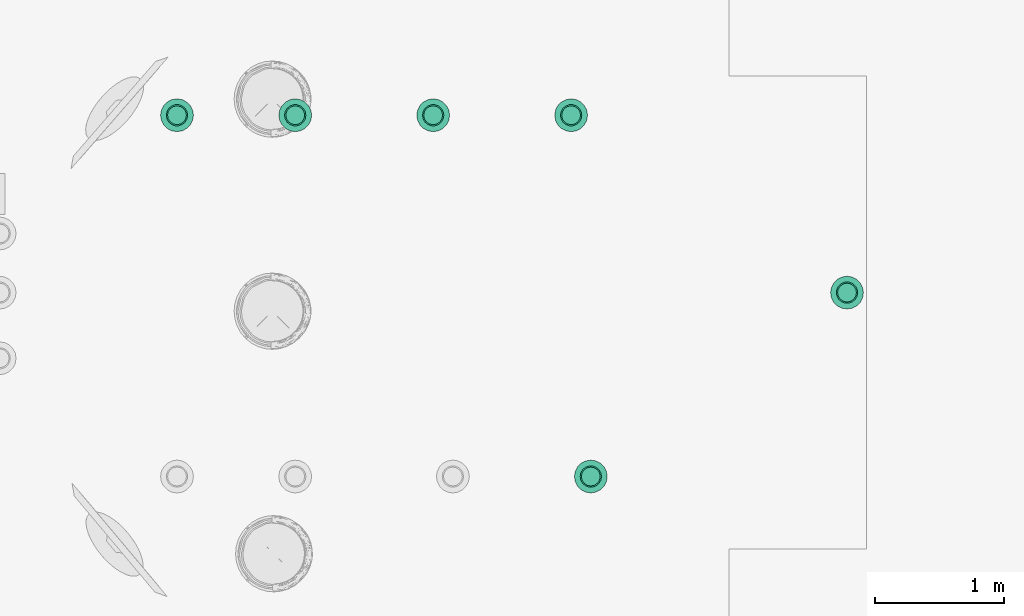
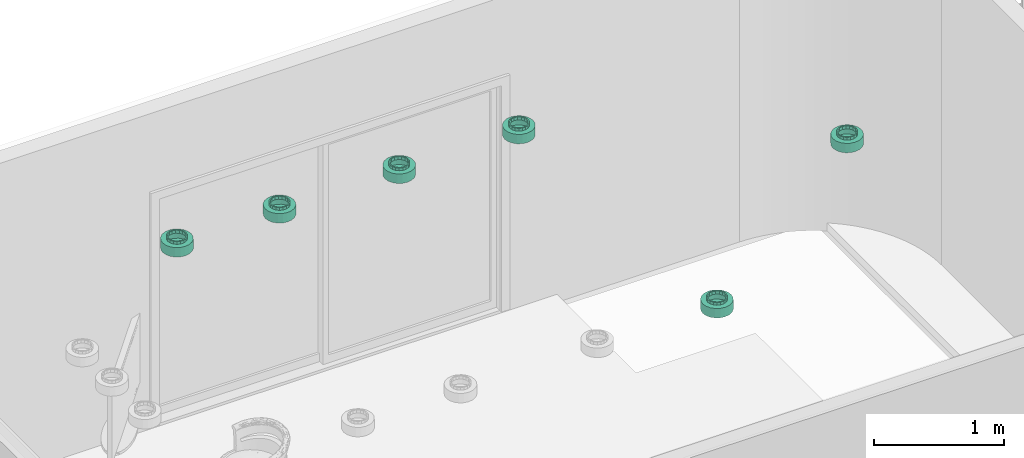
# One storey, part 4 of 8: 6 flow terminals.
"""IFC2X3 building model written with IfcOpenShell, lengths in feet."""

from ifc_helpers import new_model, entity, si_unit, converted_unit, derived_unit, direction, frame, origin, place, context, subcontext, project, spatial, faceted_brep, source, transform, mapped, material, material_list, type_object, type_shapes, element, save


model = new_model("IFC2X3")

# Units and contexts
model_context = context("Model", 3, precision=0.0001, world=origin(), true_north=direction((6.12303176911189e-17, 1.0)))
body_context = subcontext(model_context, "Body", "Model", "MODEL_VIEW")
ifc_project = project(units=[converted_unit("LENGTHUNIT", "FOOT", entity("IfcRatioMeasure", 0.3048), si_unit("LENGTHUNIT", "METRE"), dimensions=[1, 0, 0, 0, 0, 0, 0]), converted_unit("AREAUNIT", "SQUARE FOOT", entity("IfcRatioMeasure", 0.09290304), si_unit("AREAUNIT", "SQUARE_METRE"), dimensions=[2, 0, 0, 0, 0, 0, 0]), converted_unit("VOLUMEUNIT", "CUBIC FOOT", entity("IfcRatioMeasure", 0.028316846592), si_unit("VOLUMEUNIT", "CUBIC_METRE"), dimensions=[3, 0, 0, 0, 0, 0, 0]), converted_unit("PLANEANGLEUNIT", "DEGREE", entity("IfcRatioMeasure", 0.0174532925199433), si_unit("PLANEANGLEUNIT", "RADIAN"), dimensions=[0, 0, 0, 0, 0, 0, 0]), si_unit("MASSUNIT", "GRAM", prefix="KILO"), derived_unit("MASSDENSITYUNIT", [(si_unit("MASSUNIT", "GRAM", prefix="KILO"), 1), (si_unit("LENGTHUNIT", "METRE"), -3)]), si_unit("TIMEUNIT", "SECOND"), si_unit("FREQUENCYUNIT", "HERTZ"), si_unit("THERMODYNAMICTEMPERATUREUNIT", "DEGREE_CELSIUS"), derived_unit("THERMALTRANSMITTANCEUNIT", [(si_unit("MASSUNIT", "GRAM", prefix="KILO"), 1), (si_unit("THERMODYNAMICTEMPERATUREUNIT", "KELVIN"), -1), (si_unit("TIMEUNIT", "SECOND"), -3)]), derived_unit("VOLUMETRICFLOWRATEUNIT", [(si_unit("LENGTHUNIT", "METRE"), 3), (si_unit("TIMEUNIT", "SECOND"), -1)]), si_unit("ELECTRICCURRENTUNIT", "AMPERE"), si_unit("ELECTRICVOLTAGEUNIT", "VOLT"), si_unit("POWERUNIT", "WATT"), si_unit("FORCEUNIT", "NEWTON"), si_unit("ILLUMINANCEUNIT", "LUX"), si_unit("LUMINOUSFLUXUNIT", "LUMEN"), si_unit("LUMINOUSINTENSITYUNIT", "CANDELA"), derived_unit("USERDEFINED", [(si_unit("MASSUNIT", "GRAM", prefix="KILO"), -1), (si_unit("LENGTHUNIT", "METRE"), -2), (si_unit("TIMEUNIT", "SECOND"), 3), (si_unit("LUMINOUSFLUXUNIT", "LUMEN"), 1)]), derived_unit("LINEARVELOCITYUNIT", [(si_unit("LENGTHUNIT", "METRE"), 1), (si_unit("TIMEUNIT", "SECOND"), -1)]), si_unit("PRESSUREUNIT", "PASCAL"), derived_unit("USERDEFINED", [(si_unit("LENGTHUNIT", "METRE"), -2), (si_unit("MASSUNIT", "GRAM", prefix="KILO"), 1), (si_unit("TIMEUNIT", "SECOND"), -2)])], contexts=[model_context])

# Site, building, storey
site_placement = place(None, origin())
site = spatial("IfcSite", under=ifc_project, at=site_placement, Name="表面", CompositionType="ELEMENT")
building_placement = place(site_placement, origin())
building = spatial("IfcBuilding", under=site, at=building_placement, CompositionType="ELEMENT")
storey_placement = place(building_placement, frame((0.0, 0.0, 20.0)))
storey = spatial("IfcBuildingStorey", under=building, at=storey_placement, Name="Sun Deck", CompositionType="ELEMENT", Elevation=19.9999999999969)

# Flow terminals
ifc_material_1 = material(Name="Metal - Paint Finish - Dark Gray, Matte")
ifc_material_2 = material(Name="Glass - White, High Luminance")
ifc_material_list_1 = material_list([ifc_material_1, ifc_material_2])
ifc_material_list_2 = material_list([ifc_material_1, ifc_material_2])
light_fixture_type = type_object("IfcLightFixtureType", Name="60W - 120V", PredefinedType="NOTDEFINED", material=ifc_material_list_2)
shared_shape = source(origin(), body_context, "Body", "Brep", [
    faceted_brep([(0.557291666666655, 0.187326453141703, 0.374999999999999), (0.598651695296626, 0.245098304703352, 0.374999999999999), (0.558098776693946, 0.218001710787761, 0.374999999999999), (0.629345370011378, 0.247786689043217, 0.374999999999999), (0.517545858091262, 0.190905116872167, 0.374999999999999), (0.468904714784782, 0.155156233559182, 0.374999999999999), (0.625748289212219, 0.285651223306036, 0.374999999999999), (0.65284488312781, 0.326204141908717, 0.374999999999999), (0.676375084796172, 0.329244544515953, 0.374999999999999), (0.6623599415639, 0.374039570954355, 0.374999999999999), (0.671874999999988, 0.42187499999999, 0.374999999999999), (0.692708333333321, 0.421874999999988, 0.374999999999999), (0.676375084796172, 0.514505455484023, 0.374999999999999), (0.662359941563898, 0.469710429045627, 0.374999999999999), (0.652844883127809, 0.517545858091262, 0.374999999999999), (0.629345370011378, 0.595963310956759, 0.374999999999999), (0.625748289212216, 0.558098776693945, 0.374999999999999), (0.598651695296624, 0.598651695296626, 0.374999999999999), (0.557291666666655, 0.656423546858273, 0.374999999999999), (0.55809877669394, 0.625748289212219, 0.374999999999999), (0.517545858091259, 0.65284488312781, 0.374999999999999), (0.468904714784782, 0.688593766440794, 0.374999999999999), (0.469710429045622, 0.662359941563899, 0.374999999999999), (0.421874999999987, 0.671874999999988, 0.374999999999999), (0.374845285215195, 0.688593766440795, 0.374999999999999), (0.374039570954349, 0.662359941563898, 0.374999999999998), (0.326204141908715, 0.652844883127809, 0.374999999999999), (0.286458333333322, 0.656423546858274, 0.374999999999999), (0.285651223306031, 0.625748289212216, 0.374999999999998), (0.245098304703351, 0.598651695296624, 0.374999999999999), (0.214404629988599, 0.59596331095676, 0.374999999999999), (0.218001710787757, 0.558098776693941, 0.374999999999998), (0.190905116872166, 0.51754585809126, 0.374999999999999), (0.167374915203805, 0.514505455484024, 0.374999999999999), (0.181390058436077, 0.469710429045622, 0.374999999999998), (0.171874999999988, 0.421874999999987, 0.374999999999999), (0.151041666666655, 0.421874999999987, 0.374999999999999), (0.167374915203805, 0.329244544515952, 0.374999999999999), (0.181390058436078, 0.374039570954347, 0.374999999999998), (0.190905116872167, 0.326204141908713, 0.374999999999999), (0.214404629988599, 0.247786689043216, 0.374999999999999), (0.218001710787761, 0.28565122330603, 0.374999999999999), (0.245098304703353, 0.245098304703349, 0.374999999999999), (0.286458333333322, 0.187326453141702, 0.374999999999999), (0.285651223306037, 0.218001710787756, 0.374999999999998), (0.326204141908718, 0.190905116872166, 0.374999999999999), (0.374845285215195, 0.155156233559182, 0.374999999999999), (0.42187499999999, 0.171874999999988, 0.374999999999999), (0.374039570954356, 0.181390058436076, 0.374999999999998), (0.469710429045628, 0.181390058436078, 0.374999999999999), (0.557291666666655, 0.656423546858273, 0.291666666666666), (0.598651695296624, 0.598651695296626, 0.291666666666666), (0.55809877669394, 0.625748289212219, 0.291666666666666), (0.629345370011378, 0.595963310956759, 0.291666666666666), (0.517545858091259, 0.65284488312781, 0.291666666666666), (0.468904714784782, 0.688593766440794, 0.291666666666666), (0.625748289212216, 0.558098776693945, 0.291666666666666), (0.652844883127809, 0.517545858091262, 0.291666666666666), (0.676375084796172, 0.514505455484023, 0.291666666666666), (0.662359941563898, 0.469710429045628, 0.291666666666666), (0.671874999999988, 0.42187499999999, 0.291666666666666), (0.692708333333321, 0.421874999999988, 0.291666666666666), (0.676375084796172, 0.329244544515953, 0.291666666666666), (0.659760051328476, 0.36096904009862, 0.291666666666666), (0.65284488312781, 0.326204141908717, 0.291666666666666), (0.629345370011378, 0.247786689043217, 0.291666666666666), (0.625748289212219, 0.285651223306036, 0.291666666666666), (0.598651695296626, 0.245098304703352, 0.291666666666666), (0.557291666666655, 0.187326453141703, 0.291666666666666), (0.558098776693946, 0.218001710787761, 0.291666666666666), (0.517545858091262, 0.190905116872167, 0.291666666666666), (0.468904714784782, 0.155156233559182, 0.291666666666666), (0.469710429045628, 0.181390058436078, 0.291666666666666), (0.42187499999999, 0.171874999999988, 0.291666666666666), (0.374845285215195, 0.155156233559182, 0.291666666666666), (0.374039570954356, 0.181390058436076, 0.291666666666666), (0.326204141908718, 0.190905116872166, 0.291666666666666), (0.286458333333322, 0.187326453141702, 0.291666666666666), (0.285651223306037, 0.218001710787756, 0.291666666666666), (0.245098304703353, 0.245098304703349, 0.291666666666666), (0.214404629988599, 0.247786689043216, 0.291666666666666), (0.218001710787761, 0.28565122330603, 0.291666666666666), (0.190905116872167, 0.326204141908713, 0.291666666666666), (0.167374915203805, 0.329244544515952, 0.291666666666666), (0.181390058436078, 0.374039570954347, 0.291666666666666), (0.171874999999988, 0.421874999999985, 0.291666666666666), (0.151041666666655, 0.421874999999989, 0.291666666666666), (0.167374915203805, 0.514505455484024, 0.291666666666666), (0.183989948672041, 0.482780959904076, 0.291666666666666), (0.190905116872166, 0.51754585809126, 0.291666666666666), (0.214404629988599, 0.59596331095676, 0.291666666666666), (0.218001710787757, 0.558098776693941, 0.291666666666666), (0.245098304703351, 0.598651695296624, 0.291666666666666), (0.286458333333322, 0.656423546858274, 0.291666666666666), (0.285651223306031, 0.625748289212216, 0.291666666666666), (0.326204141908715, 0.652844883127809, 0.291666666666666), (0.374845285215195, 0.688593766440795, 0.291666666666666), (0.421874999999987, 0.671874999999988, 0.291666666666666), (0.374039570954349, 0.662359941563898, 0.291666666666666), (0.469710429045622, 0.662359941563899, 0.291666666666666)], [[[0, 1, 2]], [[1, 0, 3]], [[0, 2, 4]], [[4, 5, 0]], [[3, 6, 1]], [[3, 7, 6]], [[7, 3, 8]], [[8, 9, 7]], [[8, 10, 9]], [[10, 8, 11]], [[10, 11, 12]], [[12, 13, 10]], [[12, 14, 13]], [[15, 14, 12]], [[15, 16, 14]], [[15, 17, 16]], [[18, 17, 15]], [[18, 19, 17]], [[18, 20, 19]], [[21, 20, 18]], [[21, 22, 20]], [[21, 23, 22]], [[24, 23, 21]], [[24, 25, 23]], [[24, 26, 25]], [[27, 26, 24]], [[27, 28, 26]], [[27, 29, 28]], [[29, 27, 30]], [[30, 31, 29]], [[30, 32, 31]], [[32, 30, 33]], [[33, 34, 32]], [[33, 35, 34]], [[36, 35, 33]], [[37, 35, 36]], [[37, 38, 35]], [[37, 39, 38]], [[39, 37, 40]], [[40, 41, 39]], [[40, 42, 41]], [[42, 40, 43]], [[43, 44, 42]], [[43, 45, 44]], [[45, 43, 46]], [[47, 46, 5]], [[46, 47, 48]], [[46, 48, 45]], [[5, 4, 49]], [[5, 49, 47]], [[50, 51, 52]], [[51, 50, 53]], [[50, 52, 54]], [[54, 55, 50]], [[53, 56, 51]], [[53, 57, 56]], [[57, 53, 58]], [[58, 59, 57]], [[58, 60, 59]], [[60, 58, 61]], [[60, 61, 62]], [[62, 63, 60]], [[62, 64, 63]], [[65, 64, 62]], [[65, 66, 64]], [[65, 67, 66]], [[68, 67, 65]], [[68, 69, 67]], [[68, 70, 69]], [[71, 70, 68]], [[71, 72, 70]], [[71, 73, 72]], [[74, 73, 71]], [[74, 75, 73]], [[74, 76, 75]], [[77, 76, 74]], [[77, 78, 76]], [[77, 79, 78]], [[79, 77, 80]], [[80, 81, 79]], [[80, 82, 81]], [[82, 80, 83]], [[83, 84, 82]], [[83, 85, 84]], [[86, 85, 83]], [[87, 85, 86]], [[87, 88, 85]], [[87, 89, 88]], [[89, 87, 90]], [[90, 91, 89]], [[90, 92, 91]], [[92, 90, 93]], [[93, 94, 92]], [[93, 95, 94]], [[95, 93, 96]], [[97, 96, 55]], [[96, 97, 98]], [[96, 98, 95]], [[55, 54, 99]], [[55, 99, 97]], [[37, 36, 86, 83]], [[43, 40, 80, 77]], [[83, 80, 40, 37]], [[77, 74, 46, 43]], [[74, 71, 5, 46]], [[0, 5, 71, 68]], [[8, 3, 65, 62]], [[68, 65, 3, 0]], [[62, 61, 11, 8]], [[12, 11, 61, 58]], [[18, 15, 53, 50]], [[58, 53, 15, 12]], [[50, 55, 21, 18]], [[55, 96, 24, 21]], [[27, 24, 96, 93]], [[87, 33, 30, 90]], [[90, 30, 27, 93]], [[33, 87, 86, 36]], [[34, 35, 85, 88, 89, 32]], [[89, 91, 92, 29, 31, 32]], [[59, 60, 10, 13, 14, 57]], [[92, 94, 95, 26, 28, 29]], [[23, 25, 26, 95, 98, 97]], [[97, 99, 54, 20, 22, 23]], [[16, 17, 51, 56, 57, 14]], [[54, 52, 51, 17, 19, 20]], [[9, 10, 60, 63, 64, 7]], [[64, 66, 67, 1, 6, 7]], [[84, 85, 35, 38, 39, 82]], [[67, 69, 70, 4, 2, 1]], [[47, 49, 4, 70, 72, 73]], [[73, 75, 76, 45, 48, 47]], [[41, 42, 79, 81, 82, 39]], [[76, 78, 79, 42, 44, 45]]]),
    faceted_brep([(0.671874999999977, 0.421874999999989, 0.291666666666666), (0.838541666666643, 0.421874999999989, 0.291666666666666), (0.81814854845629, 0.550632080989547, 0.291666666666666), (0.818148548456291, 0.293117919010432, 0.291666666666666), (0.659760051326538, 0.360969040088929, 0.291666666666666), (0.662359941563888, 0.469710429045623, 0.291666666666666), (0.6528448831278, 0.326204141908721, 0.291666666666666), (0.758965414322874, 0.176964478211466, 0.291666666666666), (0.625748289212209, 0.28565122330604, 0.291666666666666), (0.598651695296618, 0.24509830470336, 0.291666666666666), (0.666785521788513, 0.084784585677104, 0.291666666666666), (0.558098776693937, 0.218001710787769, 0.291666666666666), (0.517545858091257, 0.190905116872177, 0.291666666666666), (0.550632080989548, 0.025601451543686, 0.291666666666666), (0.469710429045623, 0.181390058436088, 0.291666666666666), (0.421874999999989, 0.171874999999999, 0.291666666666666), (0.42187499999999, 0.00520833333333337, 0.291666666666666), (0.293117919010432, 0.0256014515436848, 0.291666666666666), (0.374039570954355, 0.181390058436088, 0.291666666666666), (0.326204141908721, 0.190905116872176, 0.291666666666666), (0.176964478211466, 0.0847845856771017, 0.291666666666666), (0.285651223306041, 0.218001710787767, 0.291666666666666), (0.24509830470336, 0.245098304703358, 0.291666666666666), (0.0847845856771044, 0.176964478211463, 0.291666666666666), (0.218001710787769, 0.285651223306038, 0.291666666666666), (0.190905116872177, 0.326204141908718, 0.291666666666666), (0.0256014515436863, 0.293117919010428, 0.291666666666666), (0.181390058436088, 0.374039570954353, 0.291666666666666), (0.171874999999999, 0.421874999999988, 0.291666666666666), (0.00520833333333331, 0.421874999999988, 0.291666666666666), (0.0256014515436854, 0.550632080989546, 0.291666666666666), (0.183989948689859, 0.482780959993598, 0.291666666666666), (0.190905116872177, 0.517545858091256, 0.291666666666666), (0.0847845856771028, 0.666785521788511, 0.291666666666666), (0.218001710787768, 0.558098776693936, 0.291666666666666), (0.245098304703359, 0.598651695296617, 0.291666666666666), (0.176964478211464, 0.758965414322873, 0.291666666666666), (0.285651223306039, 0.625748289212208, 0.291666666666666), (0.32620414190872, 0.652844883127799, 0.291666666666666), (0.29311791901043, 0.81814854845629, 0.291666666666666), (0.374039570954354, 0.662359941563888, 0.291666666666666), (0.421874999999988, 0.671874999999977, 0.291666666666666), (0.421874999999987, 0.838541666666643, 0.291666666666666), (0.550632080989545, 0.818148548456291, 0.291666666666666), (0.469710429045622, 0.662359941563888, 0.291666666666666), (0.517545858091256, 0.6528448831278, 0.291666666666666), (0.666785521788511, 0.758965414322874, 0.291666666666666), (0.558098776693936, 0.625748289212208, 0.291666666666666), (0.598651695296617, 0.598651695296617, 0.291666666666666), (0.758965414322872, 0.666785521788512, 0.291666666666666), (0.625748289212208, 0.558098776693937, 0.291666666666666), (0.652844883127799, 0.517545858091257, 0.291666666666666), (0.0256014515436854, 0.550632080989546, 0.0), (0.00520833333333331, 0.421874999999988, 0.0), (0.0847845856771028, 0.666785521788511, 0.0), (0.176964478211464, 0.758965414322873, 0.0), (0.29311791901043, 0.818148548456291, 0.0), (0.421874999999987, 0.838541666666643, 0.0), (0.550632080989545, 0.818148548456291, 0.0), (0.666785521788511, 0.758965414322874, 0.0), (0.758965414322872, 0.666785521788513, 0.0), (0.81814854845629, 0.550632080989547, 0.0), (0.838541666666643, 0.42187499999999, 0.0), (0.818148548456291, 0.293117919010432, 0.0), (0.666785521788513, 0.0847845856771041, 0.0), (0.550632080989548, 0.025601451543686, 0.0), (0.42187499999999, 0.00520833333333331, 0.0), (0.758965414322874, 0.176964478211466, 0.0), (0.293117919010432, 0.0256014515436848, 0.0), (0.176964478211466, 0.0847845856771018, 0.0), (0.0847845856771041, 0.176964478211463, 0.0), (0.025601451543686, 0.293117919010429, 0.0), (0.421874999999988, 0.421874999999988, 0.0), (0.808241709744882, 0.547413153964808, 0.0104166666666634), (0.421874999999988, 0.421874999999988, 0.0104166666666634), (0.828124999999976, 0.421874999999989, 0.0104166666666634), (0.7505381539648, 0.660662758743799, 0.0104166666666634), (0.660662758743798, 0.750538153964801, 0.0104166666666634), (0.547413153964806, 0.808241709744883, 0.0104166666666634), (0.421874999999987, 0.828124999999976, 0.0104166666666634), (0.296336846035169, 0.808241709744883, 0.0104166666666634), (0.183087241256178, 0.750538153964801, 0.0104166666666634), (0.0932118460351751, 0.660662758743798, 0.0104166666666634), (0.0355082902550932, 0.547413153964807, 0.0104166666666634), (0.0156249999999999, 0.421874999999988, 0.0104166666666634), (0.0355082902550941, 0.296336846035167, 0.0104166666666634), (0.0932118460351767, 0.183087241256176, 0.0104166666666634), (0.18308724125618, 0.093211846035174, 0.0104166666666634), (0.296336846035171, 0.0355082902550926, 0.0104166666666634), (0.42187499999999, 0.0156249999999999, 0.0104166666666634), (0.547413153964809, 0.0355082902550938, 0.0104166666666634), (0.6606627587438, 0.0932118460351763, 0.0104166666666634), (0.750538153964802, 0.183087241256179, 0.0104166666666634), (0.808241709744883, 0.296336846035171, 0.0104166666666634), (0.0355082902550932, 0.547413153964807, 0.281249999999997), (0.0156249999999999, 0.421874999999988, 0.281249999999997), (0.0932118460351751, 0.660662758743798, 0.281249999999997), (0.183087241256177, 0.750538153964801, 0.281249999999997), (0.296336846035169, 0.808241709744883, 0.281249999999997), (0.421874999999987, 0.828124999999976, 0.281249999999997), (0.660662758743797, 0.750538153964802, 0.281249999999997), (0.547413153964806, 0.808241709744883, 0.281249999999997), (0.808241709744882, 0.547413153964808, 0.281249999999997), (0.7505381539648, 0.660662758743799, 0.281249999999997), (0.828124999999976, 0.42187499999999, 0.281249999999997), (0.808241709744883, 0.296336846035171, 0.281249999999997), (0.547413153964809, 0.0355082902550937, 0.281249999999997), (0.6606627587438, 0.0932118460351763, 0.281249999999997), (0.42187499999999, 0.0156249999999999, 0.281249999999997), (0.750538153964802, 0.183087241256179, 0.281249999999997), (0.183087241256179, 0.0932118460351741, 0.281249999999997), (0.296336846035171, 0.0355082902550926, 0.281249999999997), (0.0355082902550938, 0.296336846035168, 0.281249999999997), (0.0932118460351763, 0.183087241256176, 0.281249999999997), (0.66145833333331, 0.421874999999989, 0.281249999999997), (0.650878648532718, 0.475062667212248, 0.281249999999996), (0.643221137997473, 0.513559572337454, 0.281249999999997), (0.650878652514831, 0.368687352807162, 0.281249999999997), (0.643221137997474, 0.330190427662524, 0.281249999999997), (0.617253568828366, 0.291327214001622, 0.281249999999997), (0.591285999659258, 0.25246400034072, 0.281249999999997), (0.552422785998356, 0.226496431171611, 0.281249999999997), (0.513559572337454, 0.200528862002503, 0.281249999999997), (0.467717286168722, 0.191410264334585, 0.281249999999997), (0.421874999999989, 0.182291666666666, 0.281249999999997), (0.376032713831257, 0.191410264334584, 0.281249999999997), (0.330190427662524, 0.200528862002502, 0.281249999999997), (0.291327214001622, 0.22649643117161, 0.281249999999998), (0.25246400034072, 0.252464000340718, 0.281249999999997), (0.226496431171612, 0.29132721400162, 0.281249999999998), (0.200528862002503, 0.330190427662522, 0.281249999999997), (0.191410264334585, 0.376032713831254, 0.281249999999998), (0.182291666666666, 0.421874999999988, 0.281249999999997), (0.192871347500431, 0.47506264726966, 0.281249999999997), (0.200528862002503, 0.513559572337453, 0.281249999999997), (0.226496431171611, 0.552422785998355, 0.281249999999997), (0.252464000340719, 0.591285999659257, 0.281249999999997), (0.291327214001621, 0.617253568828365, 0.281249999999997), (0.330190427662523, 0.643221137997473, 0.281249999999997), (0.376032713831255, 0.652339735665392, 0.281249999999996), (0.421874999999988, 0.66145833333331, 0.281249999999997), (0.46771728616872, 0.652339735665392, 0.281249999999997), (0.513559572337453, 0.643221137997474, 0.281249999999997), (0.591285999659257, 0.591285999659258, 0.281249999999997), (0.552422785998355, 0.617253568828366, 0.281249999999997), (0.617253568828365, 0.552422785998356, 0.281249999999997), (0.191410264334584, 0.467717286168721, 0.375), (0.182291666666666, 0.421874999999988, 0.375), (0.200528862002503, 0.513559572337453, 0.375), (0.252464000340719, 0.591285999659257, 0.375), (0.226496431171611, 0.552422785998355, 0.375), (0.330190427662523, 0.643221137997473, 0.375), (0.291327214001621, 0.617253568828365, 0.375), (0.421874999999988, 0.66145833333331, 0.375), (0.376032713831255, 0.652339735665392, 0.375), (0.552422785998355, 0.617253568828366, 0.375), (0.513559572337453, 0.643221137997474, 0.375), (0.591285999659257, 0.591285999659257, 0.375), (0.643221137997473, 0.513559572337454, 0.375), (0.617253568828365, 0.552422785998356, 0.375), (0.46771728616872, 0.652339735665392, 0.375), (0.652339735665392, 0.467717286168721, 0.375), (0.66145833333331, 0.421874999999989, 0.375), (0.652339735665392, 0.376032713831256, 0.375), (0.643221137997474, 0.330190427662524, 0.375), (0.591285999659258, 0.25246400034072, 0.375), (0.617253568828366, 0.291327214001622, 0.375), (0.513559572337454, 0.200528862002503, 0.375), (0.552422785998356, 0.226496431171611, 0.375), (0.421874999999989, 0.182291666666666, 0.375), (0.467717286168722, 0.191410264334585, 0.375), (0.200528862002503, 0.330190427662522, 0.375), (0.192871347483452, 0.368687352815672, 0.375), (0.25246400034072, 0.252464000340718, 0.375), (0.291327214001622, 0.22649643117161, 0.375), (0.330190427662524, 0.200528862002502, 0.375), (0.226496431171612, 0.29132721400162, 0.375), (0.376032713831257, 0.191410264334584, 0.375), (0.671874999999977, 0.421874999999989, 0.375), (0.659760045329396, 0.482780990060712, 0.375), (0.652844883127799, 0.517545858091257, 0.375), (0.662359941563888, 0.374039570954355, 0.375), (0.6528448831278, 0.326204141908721, 0.375), (0.625748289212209, 0.28565122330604, 0.375), (0.598651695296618, 0.24509830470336, 0.375), (0.558098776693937, 0.218001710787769, 0.375), (0.517545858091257, 0.190905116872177, 0.375), (0.469710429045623, 0.181390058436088, 0.375), (0.421874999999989, 0.171874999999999, 0.375), (0.374039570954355, 0.181390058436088, 0.375), (0.326204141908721, 0.190905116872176, 0.375), (0.285651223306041, 0.218001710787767, 0.375), (0.24509830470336, 0.245098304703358, 0.375), (0.218001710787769, 0.285651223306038, 0.375), (0.190905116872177, 0.326204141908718, 0.375), (0.183989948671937, 0.360969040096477, 0.375), (0.171874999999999, 0.421874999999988, 0.375), (0.181390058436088, 0.469710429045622, 0.375), (0.190905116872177, 0.517545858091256, 0.375), (0.218001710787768, 0.558098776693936, 0.375), (0.245098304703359, 0.598651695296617, 0.375), (0.285651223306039, 0.625748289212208, 0.375), (0.32620414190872, 0.652844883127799, 0.375), (0.374039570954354, 0.662359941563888, 0.375), (0.421874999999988, 0.671874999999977, 0.375), (0.469710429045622, 0.662359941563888, 0.375), (0.517545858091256, 0.6528448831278, 0.375), (0.558098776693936, 0.625748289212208, 0.375), (0.598651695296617, 0.598651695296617, 0.375), (0.625748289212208, 0.558098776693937, 0.375)], [[[0, 1, 2]], [[0, 3, 1]], [[3, 0, 4]], [[2, 5, 0]], [[3, 4, 6]], [[7, 3, 6]], [[7, 6, 8]], [[7, 8, 9]], [[10, 7, 9]], [[10, 9, 11]], [[10, 11, 12]], [[10, 12, 13]], [[13, 12, 14]], [[13, 14, 15]], [[16, 13, 15]], [[16, 15, 17]], [[17, 15, 18]], [[17, 18, 19]], [[17, 19, 20]], [[20, 19, 21]], [[20, 21, 22]], [[23, 20, 22]], [[23, 22, 24]], [[23, 24, 25]], [[25, 26, 23]], [[26, 25, 27]], [[26, 27, 28]], [[29, 26, 28]], [[30, 29, 28]], [[30, 28, 31]], [[30, 31, 32]], [[30, 32, 33]], [[33, 32, 34]], [[33, 34, 35]], [[36, 33, 35]], [[36, 35, 37]], [[36, 37, 38]], [[39, 36, 38]], [[39, 38, 40]], [[39, 40, 41]], [[42, 39, 41]], [[42, 41, 43]], [[43, 41, 44]], [[43, 44, 45]], [[46, 43, 45]], [[46, 45, 47]], [[46, 47, 48]], [[46, 48, 49]], [[49, 48, 50]], [[49, 50, 51]], [[49, 51, 2]], [[2, 51, 5]], [[52, 53, 29, 30]], [[30, 33, 54, 52]], [[36, 55, 54, 33]], [[55, 36, 39, 56]], [[56, 39, 42, 57]], [[58, 43, 46, 59]], [[60, 49, 2, 61]], [[46, 49, 60, 59]], [[61, 2, 1, 62]], [[43, 58, 57, 42]], [[1, 3, 63, 62]], [[64, 10, 13, 65]], [[16, 66, 65, 13]], [[63, 3, 7, 67]], [[10, 64, 67, 7]], [[68, 17, 20, 69]], [[70, 23, 26, 71]], [[20, 23, 70, 69]], [[71, 26, 29, 53]], [[17, 68, 66, 16]], [[62, 72, 61]], [[62, 63, 72]], [[72, 63, 67]], [[72, 67, 64]], [[72, 64, 65]], [[65, 66, 72]], [[68, 72, 66]], [[72, 68, 69]], [[72, 69, 70]], [[71, 72, 70]], [[72, 71, 53]], [[72, 53, 52]], [[72, 52, 54]], [[54, 55, 72]], [[72, 55, 56]], [[56, 57, 72]], [[72, 57, 58]], [[59, 72, 58]], [[72, 59, 60]], [[61, 72, 60]], [[73, 74, 75]], [[76, 74, 73]], [[76, 77, 74]], [[78, 74, 77]], [[78, 79, 74]], [[74, 79, 80]], [[80, 81, 74]], [[74, 81, 82]], [[82, 83, 74]], [[83, 84, 74]], [[84, 85, 74]], [[86, 74, 85]], [[86, 87, 74]], [[87, 88, 74]], [[89, 74, 88]], [[74, 89, 90]], [[90, 91, 74]], [[91, 92, 74]], [[92, 93, 74]], [[74, 93, 75]], [[94, 95, 84, 83]], [[82, 96, 94, 83]], [[96, 82, 81, 97]], [[81, 80, 98, 97]], [[98, 80, 79, 99]], [[100, 101, 78, 77]], [[102, 103, 76, 73]], [[77, 76, 103, 100]], [[104, 102, 73, 75]], [[79, 78, 101, 99]], [[105, 104, 75, 93]], [[106, 107, 91, 90]], [[108, 106, 90, 89]], [[93, 92, 109, 105]], [[109, 92, 91, 107]], [[110, 111, 88, 87]], [[112, 113, 86, 85]], [[87, 86, 113, 110]], [[95, 112, 85, 84]], [[89, 88, 111, 108]], [[102, 104, 114]], [[102, 114, 115]], [[102, 115, 116]], [[102, 116, 103]], [[104, 105, 114]], [[105, 117, 114]], [[105, 118, 117]], [[118, 105, 109]], [[109, 119, 118]], [[109, 120, 119]], [[120, 109, 107]], [[107, 121, 120]], [[107, 122, 121]], [[106, 122, 107]], [[106, 123, 122]], [[106, 124, 123]], [[124, 106, 108]], [[111, 124, 108]], [[111, 125, 124]], [[111, 126, 125]], [[110, 126, 111]], [[110, 127, 126]], [[110, 128, 127]], [[128, 110, 113]], [[113, 129, 128]], [[113, 130, 129]], [[113, 112, 130]], [[112, 131, 130]], [[112, 132, 131]], [[132, 112, 95]], [[132, 95, 94]], [[94, 133, 132]], [[94, 134, 133]], [[96, 134, 94]], [[96, 135, 134]], [[96, 136, 135]], [[136, 96, 97]], [[97, 137, 136]], [[97, 138, 137]], [[138, 97, 98]], [[98, 139, 138]], [[98, 140, 139]], [[140, 98, 99]], [[101, 140, 99]], [[101, 141, 140]], [[101, 142, 141]], [[142, 101, 100]], [[103, 143, 100]], [[100, 143, 144]], [[100, 144, 142]], [[103, 116, 145]], [[103, 145, 143]], [[146, 147, 132, 133, 134, 148]], [[136, 149, 150, 148, 134, 135]], [[136, 137, 138, 151, 152, 149]], [[151, 138, 139, 140, 153, 154]], [[155, 156, 142, 144, 143, 157]], [[116, 158, 159, 157, 143, 145]], [[153, 140, 141, 142, 156, 160]], [[161, 158, 116, 115, 114, 162]], [[163, 162, 114, 117, 118, 164]], [[120, 165, 166, 164, 118, 119]], [[120, 121, 122, 167, 168, 165]], [[123, 124, 169, 170, 167, 122]], [[171, 130, 131, 132, 147, 172]], [[128, 173, 174, 175, 126, 127]], [[128, 129, 130, 171, 176, 173]], [[175, 177, 169, 124, 125, 126]], [[162, 178, 179]], [[162, 179, 180]], [[180, 161, 162]], [[162, 181, 178]], [[162, 182, 181]], [[182, 162, 163]], [[182, 163, 164]], [[164, 183, 182]], [[164, 184, 183]], [[184, 164, 166]], [[184, 166, 165]], [[165, 185, 184]], [[165, 186, 185]], [[186, 165, 168]], [[186, 168, 167]], [[167, 187, 186]], [[167, 188, 187]], [[188, 167, 170]], [[188, 170, 169]], [[188, 169, 177]], [[188, 177, 175]], [[175, 189, 188]], [[175, 190, 189]], [[190, 175, 174]], [[190, 174, 173]], [[173, 191, 190]], [[173, 192, 191]], [[192, 173, 176]], [[192, 176, 171]], [[171, 193, 192]], [[171, 194, 193]], [[194, 171, 172]], [[194, 172, 147]], [[147, 195, 194]], [[147, 196, 195]], [[147, 197, 196]], [[147, 198, 197]], [[198, 147, 146]], [[198, 146, 148]], [[148, 199, 198]], [[148, 200, 199]], [[200, 148, 150]], [[200, 150, 149]], [[149, 201, 200]], [[149, 202, 201]], [[202, 149, 152]], [[202, 152, 151]], [[151, 203, 202]], [[151, 204, 203]], [[204, 151, 154]], [[204, 154, 153]], [[204, 153, 160]], [[204, 160, 156]], [[156, 205, 204]], [[156, 206, 205]], [[206, 156, 155]], [[206, 155, 157]], [[157, 207, 206]], [[157, 208, 207]], [[208, 157, 159]], [[208, 159, 158]], [[158, 180, 209]], [[180, 158, 161]], [[158, 209, 208]], [[198, 32, 31, 28, 196, 197]], [[199, 200, 35, 34, 32, 198]], [[200, 201, 202, 38, 37, 35]], [[40, 38, 202, 203, 204, 41]], [[47, 45, 206, 207, 208, 48]], [[178, 0, 5, 51, 180, 179]], [[208, 209, 180, 51, 50, 48]], [[45, 44, 41, 204, 205, 206]], [[182, 6, 4, 0, 178, 181]], [[183, 184, 9, 8, 6, 182]], [[184, 185, 186, 12, 11, 9]], [[187, 188, 15, 14, 12, 186]], [[195, 196, 28, 27, 25, 194]], [[191, 192, 22, 21, 19, 190]], [[192, 193, 194, 25, 24, 22]], [[19, 18, 15, 188, 189, 190]]]),
])
type_shapes(light_fixture_type, [shared_shape])
flow_terminal_1_placement = place(storey_placement, frame((-6.2067880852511, 6.0105186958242, 9.625)))
element("IfcFlowTerminal", 1, at=flow_terminal_1_placement, inside=storey, type_object=light_fixture_type, material=ifc_material_list_1, Name="Ceiling Light - Flat Round:60W - 120V", ObjectType="60W - 120V", context=body_context, shape_type="MappedRepresentation", body=[
    mapped(shared_shape, transform((0.0, 0.0, 0.0), scale=1.0)),
])
ifc_material_list_3 = material_list([ifc_material_1, ifc_material_2])
flow_terminal_2_placement = place(storey_placement, frame((-3.2067880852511, 6.01051869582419, 9.625)))
element("IfcFlowTerminal", 2, at=flow_terminal_2_placement, inside=storey, type_object=light_fixture_type, material=ifc_material_list_3, Name="Ceiling Light - Flat Round:60W - 120V", ObjectType="60W - 120V", context=body_context, shape_type="MappedRepresentation", body=[
    mapped(shared_shape, transform((0.0, 0.0, 0.0), scale=1.0)),
])
ifc_material_list_4 = material_list([ifc_material_1, ifc_material_2])
flow_terminal_3_placement = place(storey_placement, frame((0.293211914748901, 6.01051869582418, 9.625)))
element("IfcFlowTerminal", 3, at=flow_terminal_3_placement, inside=storey, type_object=light_fixture_type, material=ifc_material_list_4, Name="Ceiling Light - Flat Round:60W - 120V", ObjectType="60W - 120V", context=body_context, shape_type="MappedRepresentation", body=[
    mapped(shared_shape, transform((0.0, 0.0, 0.0), scale=1.0)),
])
ifc_material_list_5 = material_list([ifc_material_1, ifc_material_2])
flow_terminal_4_placement = place(storey_placement, frame((3.79321191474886, 6.01051869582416, 9.625)))
element("IfcFlowTerminal", 4, at=flow_terminal_4_placement, inside=storey, type_object=light_fixture_type, material=ifc_material_list_5, Name="Ceiling Light - Flat Round:60W - 120V", ObjectType="60W - 120V", context=body_context, shape_type="MappedRepresentation", body=[
    mapped(shared_shape, transform((0.0, 0.0, 0.0), scale=1.0)),
])
ifc_material_list_6 = material_list([ifc_material_1, ifc_material_2])
flow_terminal_5_placement = place(storey_placement, frame((4.29321191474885, -3.15614797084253, 9.625)))
element("IfcFlowTerminal", 5, at=flow_terminal_5_placement, inside=storey, type_object=light_fixture_type, material=ifc_material_list_6, Name="Ceiling Light - Flat Round:60W - 120V", ObjectType="60W - 120V", context=body_context, shape_type="MappedRepresentation", body=[
    mapped(shared_shape, transform((0.0, 0.0, 0.0), scale=1.0)),
])
ifc_material_list_7 = material_list([ifc_material_1, ifc_material_2])
flow_terminal_6_placement = place(storey_placement, frame((10.7932119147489, 1.51051869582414, 9.625)))
element("IfcFlowTerminal", 6, at=flow_terminal_6_placement, inside=storey, type_object=light_fixture_type, material=ifc_material_list_7, Name="Ceiling Light - Flat Round:60W - 120V", ObjectType="60W - 120V", context=body_context, shape_type="MappedRepresentation", body=[
    mapped(shared_shape, transform((0.0, 0.0, 0.0), scale=1.0)),
])

save(model, "model.ifc")
